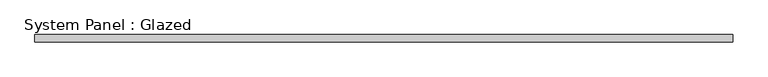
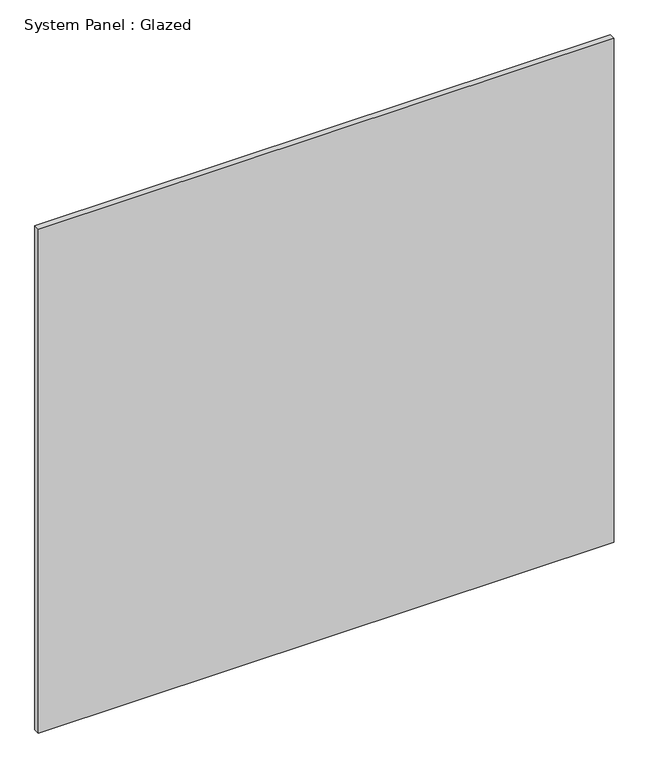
"""IFC4 building model written with IfcOpenShell, lengths in millimetres: plate geometry, System Panel : Glazed."""

from ifc_helpers import new_model, si_unit, origin, origin_with_axes, place, context, project, spatial, polyline, outline, extrude, source, transform, mapped, element, save


def system_panel_glazed_399a5d6c(model_context):
    return source(origin(), model_context, "Body", "SweptSolid", [
        extrude(outline(polyline([(1235.2309405, 19.05), (-1235.2309405, 19.05), (-1235.2309405, 44.45), (1235.2309405, 44.45), (1235.2309405, 19.05)])), origin_with_axes(), (0.0, 0.0, 1.0), 2286.0),
    ])


if __name__ == "__main__":
    model = new_model("IFC4")
    model_context = context("Model", 3, world=origin())
    ifc_project = project(units=[si_unit("LENGTHUNIT", "METRE", prefix="MILLI")], contexts=[model_context])
    site = spatial("IfcSite", under=ifc_project)
    building = spatial("IfcBuilding", under=site)
    placement = place(None, origin())
    system_panel_glazed_shape = system_panel_glazed_399a5d6c(model_context)
    element("IfcPlate", 1, ObjectType="System Panel : Glazed", at=placement, inside=building, context=model_context, shape_type="MappedRepresentation", body=[
        mapped(system_panel_glazed_shape, transform((0.0, 0.0, 0.0), x_axis=(1.0, 0.0, 0.0), y_axis=(0.0, 1.0, 0.0), z_axis=(0.0, 0.0, 1.0))),
    ])
    save(model, "model.ifc")
